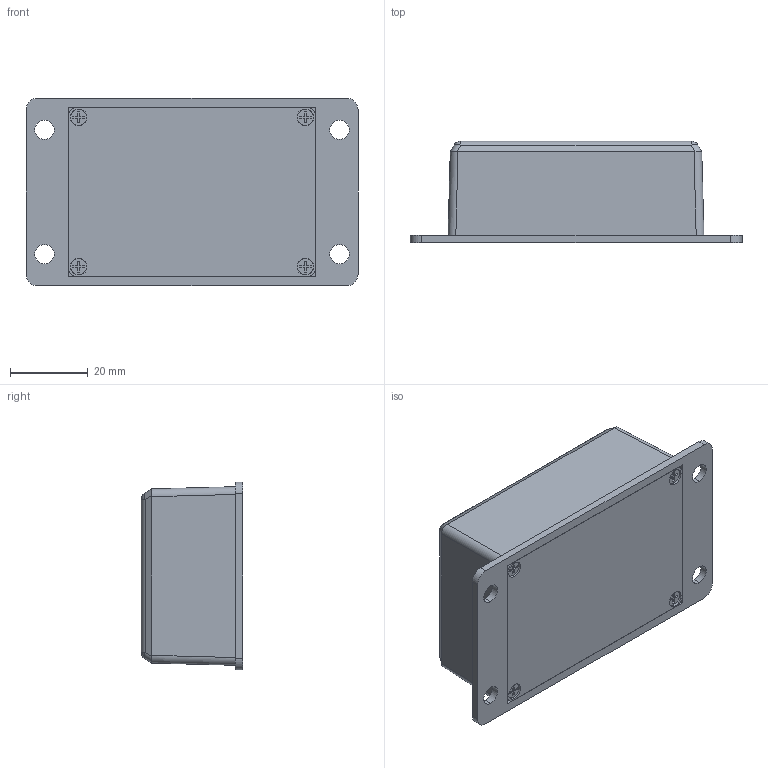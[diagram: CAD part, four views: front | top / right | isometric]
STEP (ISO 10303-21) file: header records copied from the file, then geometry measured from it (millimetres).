
FILE_DESCRIPTION (( 'STEP AP214' ), '1' );
FILE_NAME ('Conjunt PP94 E.STEP', '2017-10-16T07:07:09', ( 'aaa' ), ( '' ), 'SwSTEP 2.0', 'SolidWorks 2013', '' );
FILE_SCHEMA (( 'AUTOMOTIVE_DESIGN' ));
Length unit declared in the file: millimetre
Products named in the file (5): Cargol 2,2x9,3 PP94 E; Cargol 2,1x6,5 PP94 E; Tapa PP94 E; Cos PP94 E; Conjunt PP94 E
Assembly tree (8 placements, depth 2):
  Conjunt PP94 E
    Cos PP94 E
    Tapa PP94 E
    Cargol 2,1x6,5 PP94 E  x2
    Cargol 2,2x9,3 PP94 E  x4
Bounding box: 85.5 x 26.1 x 48.3 mm (x, y, z)
Volume: 22537.3 mm3; surface area: 26278.4 mm2
Topology: 8 solids, 8 shells, 574 faces, 1278 edges, 726 vertices
Faces by surface type: cone 340, plane 140, cylinder 86, sphere 4, torus 4
Entity records: 7938 total; most frequent: DIRECTION 1430, CARTESIAN_POINT 1369, ORIENTED_EDGE 1260, EDGE_CURVE 630, AXIS2_PLACEMENT_3D 539, VERTEX_POINT 382, LINE 352, VECTOR 352
